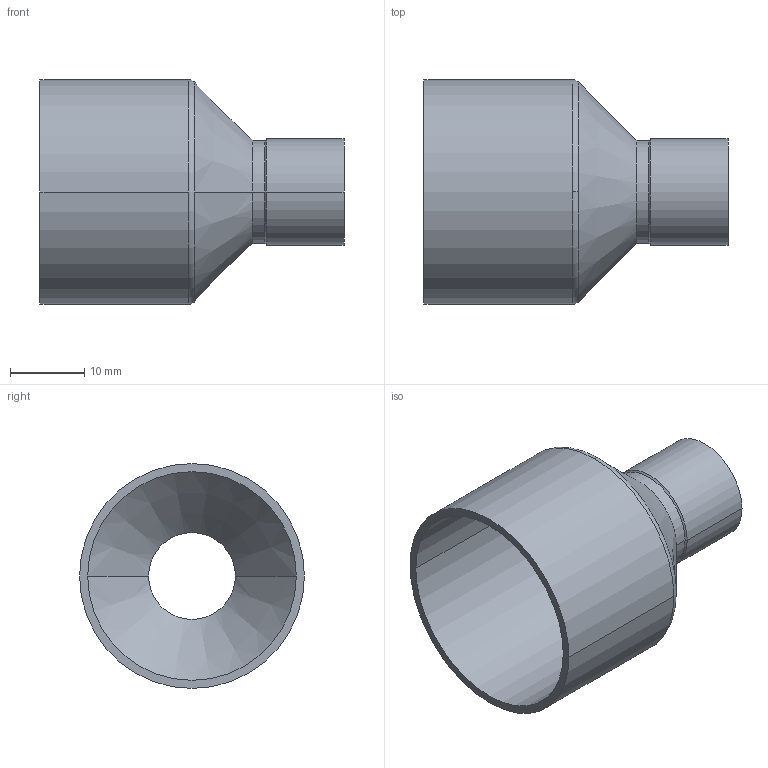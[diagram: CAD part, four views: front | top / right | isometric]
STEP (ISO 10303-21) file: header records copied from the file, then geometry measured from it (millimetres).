
FILE_DESCRIPTION((''),'2;1');
FILE_NAME('G:\Technics\CAD\Bauteile\Serie 15240\152402812.stp','2005-10-21T12:51:09',('boden'),(''),'Autodesk Inventor 8','Autodesk Inventor 8','');
FILE_SCHEMA(('AUTOMOTIVE_DESIGN { 1 0 10303 214 1 1 1 1 }'));
Length unit declared in the file: millimetre
Products named in the file (1): 152402812
Bounding box: 41 x 30.33 x 30.33 mm (x, y, z)
Volume: 3458.3 mm3; surface area: 6434.3 mm2
Topology: 1 solids, 1 shells, 24 faces, 52 edges, 30 vertices
Faces by surface type: cylinder 12, cone 8, torus 2, plane 2
Entity records: 683 total; most frequent: DIRECTION 134, CARTESIAN_POINT 107, ORIENTED_EDGE 104, AXIS2_PLACEMENT_3D 57, EDGE_CURVE 52, CIRCLE 32, VERTEX_POINT 30, EDGE_LOOP 26
